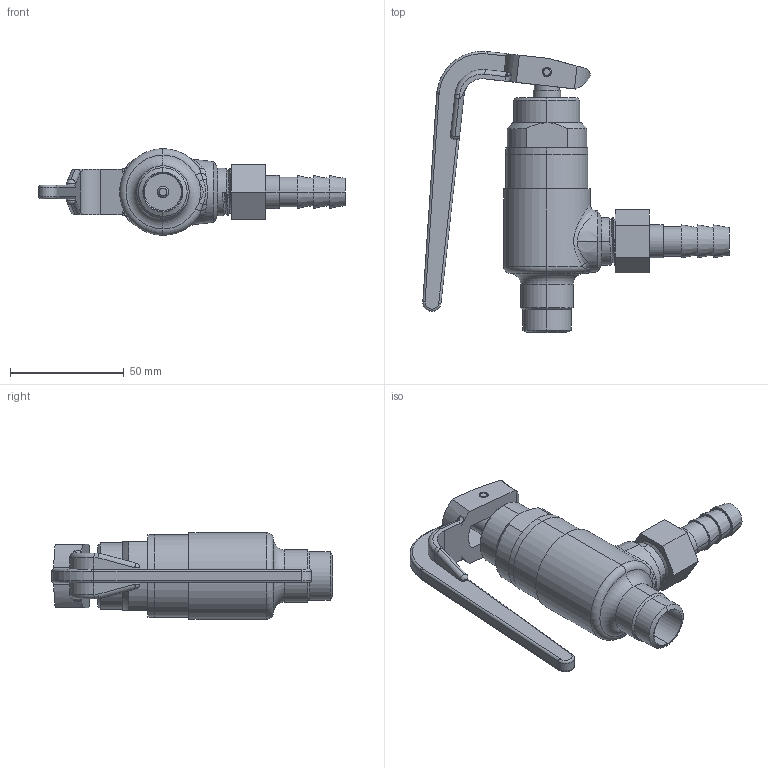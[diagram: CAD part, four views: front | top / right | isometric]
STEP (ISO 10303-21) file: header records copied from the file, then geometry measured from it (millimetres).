
FILE_DESCRIPTION (( 'STEP AP214' ), '1' );
FILE_NAME ('SSO46062-10-DN15_R1#G1-2.STEP', '2006-03-14T12:58:48', ( 'Herr Grams' ), ( 'AWP GmbH' ), 'SwSTEP 2.0', 'SolidWorks 2002296', '' );
FILE_SCHEMA (( 'AUTOMOTIVE_DESIGN' ));
Length unit declared in the file: millimetre
Products named in the file (8): SSO46062-10-DN15_R1#G1-2; Stift4x28_Standard; Spindel44354-10-DN15_PS40_Standard; Dichtkolben44354-10-DN15_PS40_Standard; Hebel44354-10-DN15_Standard; Deckel44354-10-DN15_PS40_Standard; Geh44354-10-DN15_PS40_R1#G1-2_Standard; Schlauchtülle_G1-2durchm13_Standard
Assembly tree (7 placements, depth 2):
  SSO46062-10-DN15_R1#G1-2
    Stift4x28_Standard
    Deckel44354-10-DN15_PS40_Standard
    Hebel44354-10-DN15_Standard
    Schlauchtülle_G1-2durchm13_Standard
    Geh44354-10-DN15_PS40_R1#G1-2_Standard
    Dichtkolben44354-10-DN15_PS40_Standard
    Spindel44354-10-DN15_PS40_Standard
Bounding box: 134.46 x 123.33 x 38 mm (x, y, z)
Volume: 96152.8 mm3; surface area: 48336.3 mm2
Topology: 7 solids, 7 shells, 290 faces, 663 edges, 411 vertices
Faces by surface type: cylinder 132, plane 71, cone 41, torus 27, bspline 17, sphere 2
Entity records: 20495 total; most frequent: CARTESIAN_POINT 13555, DIRECTION 1440, ORIENTED_EDGE 1314, EDGE_CURVE 657, AXIS2_PLACEMENT_3D 599, VERTEX_POINT 409, EDGE_LOOP 336, CIRCLE 316
